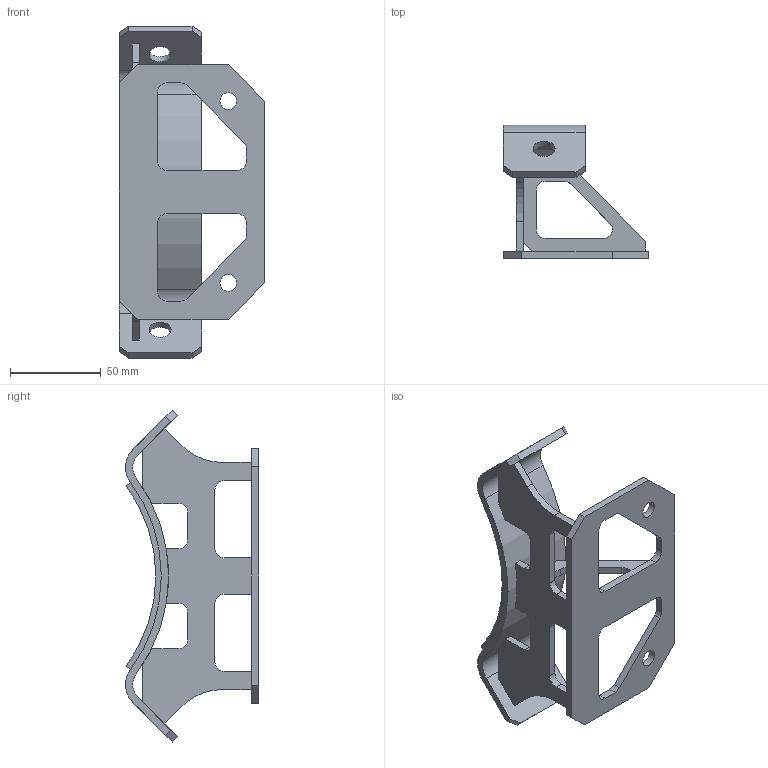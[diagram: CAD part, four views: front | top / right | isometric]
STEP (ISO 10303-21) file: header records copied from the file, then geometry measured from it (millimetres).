
FILE_DESCRIPTION(/* description */ ('SUPPORT 2','CAx-IF Rec.Pracs.---Representation and Presentation of Product Manufacturing Information (PMI)---4.0---2014-10-13'),/* implementation_level */ '2;1');
FILE_NAME(/* name */ 'vv330202-C.stp',/* time_stamp */ '2025-09-24T13:45:50+02:00',/* author */ ('PUIGSERVER B.'),/* organization */ (''),/* preprocessor_version */ 'ST-DEVELOPER v20',/* originating_system */ 'Autodesk Inventor 2025',/* authorisation */ '');
FILE_SCHEMA (('AP242_MANAGED_MODEL_BASED_3D_ENGINEERING_MIM_LF { 1 0 10303 442 1 1 4 }'));
Length unit declared in the file: millimetre
Products named in the file (1): VICTOR.V.33.02.02
Bounding box: 80 x 73.21 x 182.63 mm (x, y, z)
Volume: 101866.5 mm3; surface area: 62890.6 mm2
Topology: 5 solids, 5 shells, 113 faces, 309 edges, 206 vertices
Faces by surface type: plane 74, cylinder 39
Full cylindrical faces by diameter (mm): 9.3 x2, 12 x2
Entity records: 4788 total; most frequent: CARTESIAN_POINT 1049, DIRECTION 745, ORIENTED_EDGE 618, EDGE_CURVE 309, AXIS2_PLACEMENT_3D 257, LINE 231, VECTOR 231, VERTEX_POINT 206
